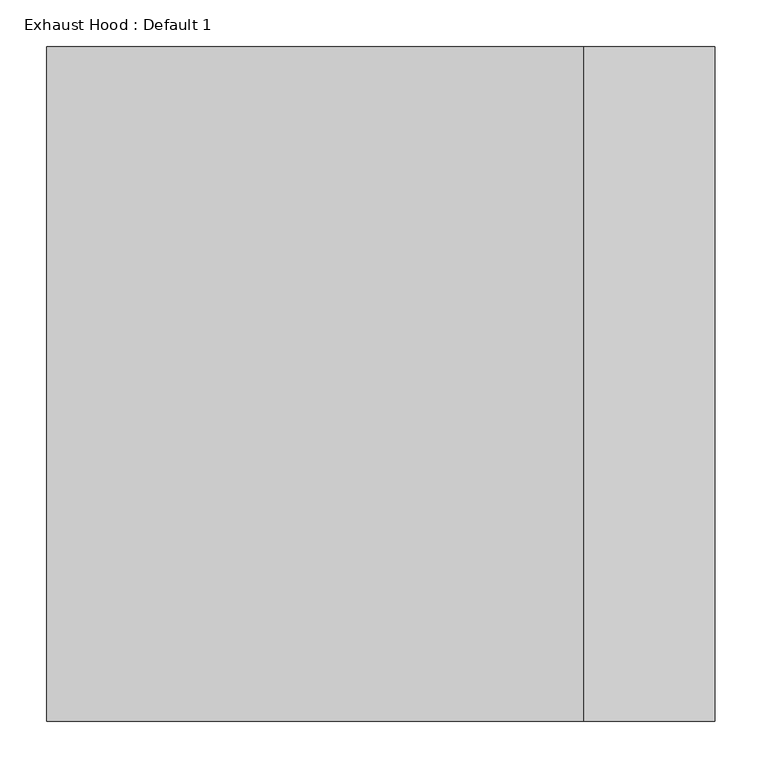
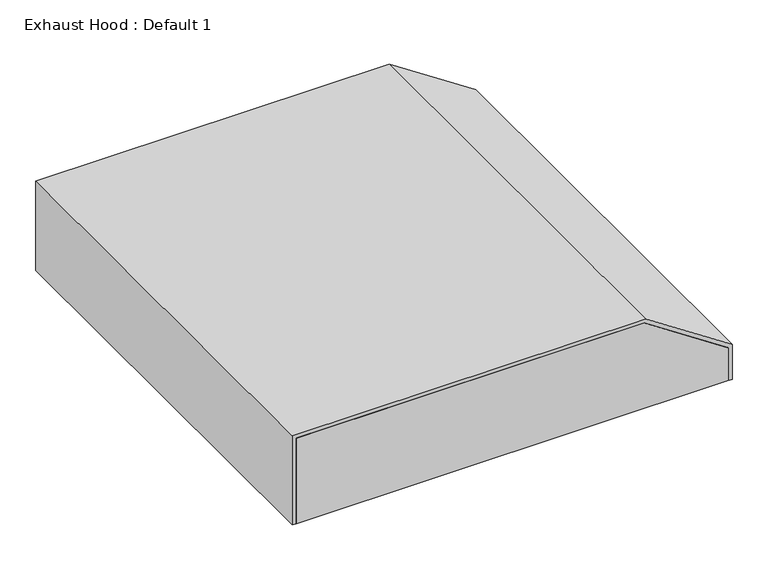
"""IFC4 building model written with IfcOpenShell, lengths in millimetres: proxy geometry, Exhaust Hood : Default 1."""

from ifc_helpers import new_model, si_unit, frame, origin, place, context, project, spatial, polyline, outline, extrude, source, transform, mapped, element, save


def exhaust_hood_default_1_27298f71(model_context):
    return source(origin(), model_context, "Body", "SweptSolid", [
        extrude(outline(polyline([(2279.65, 569.3336282), (2279.65, 6.35), (2133.6, 6.35), (2133.6, 704.85), (2189.8842631, 704.85), (2279.65, 569.3336282)])), frame((0.0, 711.2, 0.0), z_axis=(0.0, 1.0, 0.0), x_axis=(0.0, 0.0, 1.0)), (0.0, 0.0, 1.0), 6.35),
        extrude(outline(polyline([(2279.65, 569.3336282), (2279.65, 6.35), (2133.6, 6.35), (2133.6, 704.85), (2189.8842631, 704.85), (2279.65, 569.3336282)])), frame((0.0, 0.0, 0.0), z_axis=(0.0, 1.0, 0.0), x_axis=(0.0, 0.0, 1.0)), (0.0, 0.0, 1.0), 6.35),
        extrude(outline(polyline([(2286.0, 571.2459942), (2286.0, 0.0), (2133.6, 0.0), (2133.6, 6.35), (2279.65, 6.35), (2279.65, 569.3336282), (2189.8842631, 704.85), (2133.6, 704.85), (2133.6, 711.2), (2193.2947845, 711.2), (2286.0, 571.2459942)])), frame((0.0, 0.0, 0.0), z_axis=(0.0, 1.0, 0.0), x_axis=(0.0, 0.0, 1.0)), (0.0, 0.0, 1.0), 717.55),
    ])


if __name__ == "__main__":
    model = new_model("IFC4")
    model_context = context("Model", 3, world=origin())
    ifc_project = project(units=[si_unit("LENGTHUNIT", "METRE", prefix="MILLI")], contexts=[model_context])
    site = spatial("IfcSite", under=ifc_project)
    building = spatial("IfcBuilding", under=site)
    placement = place(None, origin())
    exhaust_hood_default_1_shape = exhaust_hood_default_1_27298f71(model_context)
    element("IfcBuildingElementProxy", 1, Name="Exhaust Hood : Default 1", ObjectType="Exhaust Hood : Default 1", at=placement, inside=building, context=model_context, shape_type="MappedRepresentation", body=[
        mapped(exhaust_hood_default_1_shape, transform((0.0, 0.0, 0.0), x_axis=(1.0, 0.0, 0.0), y_axis=(0.0, 1.0, 0.0), z_axis=(0.0, 0.0, 1.0))),
    ])
    save(model, "model.ifc")
